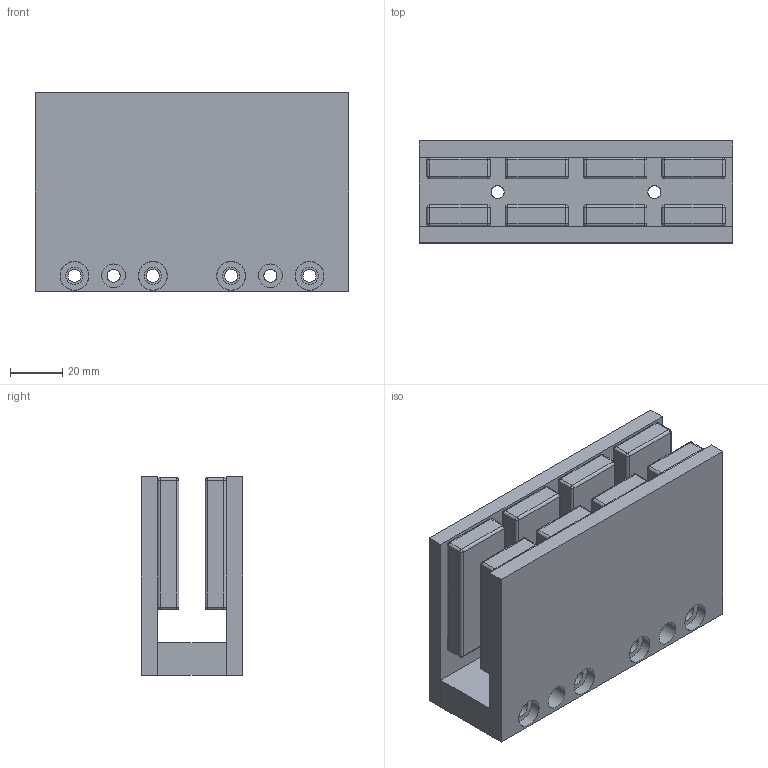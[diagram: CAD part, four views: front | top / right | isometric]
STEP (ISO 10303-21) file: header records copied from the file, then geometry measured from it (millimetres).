
FILE_DESCRIPTION (( 'STEP AP214' ), '1' );
FILE_NAME ('JKB4-120¶¨×Ó.STEP', '2025-09-05T12:47:15', ( '' ), ( '' ), 'SwSTEP 2.0', 'SolidWorks 2016', '' );
FILE_SCHEMA (( 'AUTOMOTIVE_DESIGN' ));
Length unit declared in the file: millimetre
Products named in the file (1): JKB4-120隅赽
Bounding box: 120 x 39 x 76.2 mm (x, y, z)
Volume: 225994.4 mm3; surface area: 83258 mm2
Topology: 11 solids, 11 shells, 314 faces, 708 edges, 356 vertices
Faces by surface type: cylinder 160, plane 74, sphere 64, cone 16
Entity records: 11774 total; most frequent: DIRECTION 1578, CARTESIAN_POINT 1363, ORIENTED_EDGE 1288, EDGE_CURVE 644, AXIS2_PLACEMENT_3D 635, EDGE_LOOP 362, VERTEX_POINT 356, UNCERTAINTY_MEASURE_WITH_UNIT 327
